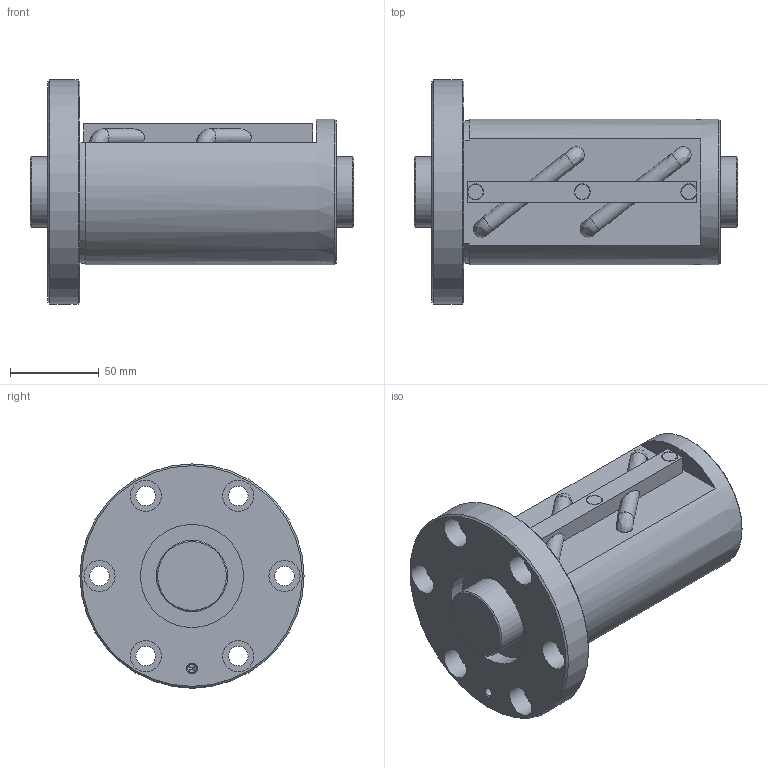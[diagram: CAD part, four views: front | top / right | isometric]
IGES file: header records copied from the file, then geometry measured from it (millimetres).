
Start section: Data from Parasolid IGES Translator 26.0.171, Copyright(c) 2006 Siemens PLM Software. All Rights Reserved.
Global section: file name: BNF4020V-5RRG1+182LC0_000_rev.igs; native system: By Siemens PLM Incorporated; preprocessor: XPlus GENERIC/IGES 26.0.171; author: Noname; organization: Noname; date: 20240806.084134; units: millimetre
Bounding box: 182 x 126 x 126 mm (x, y, z)
Surface area: 122413.3 mm2 (no closed solid volume)
Topology: 0 solids, 0 shells, 91 faces, 437 edges, 400 vertices
Faces by surface type: revolution 50, extrusion 41
